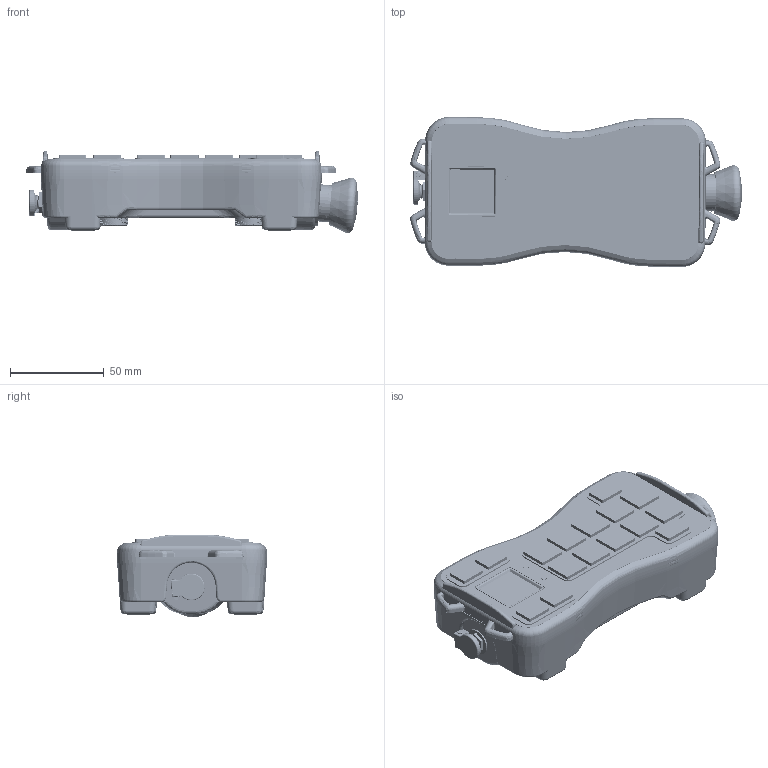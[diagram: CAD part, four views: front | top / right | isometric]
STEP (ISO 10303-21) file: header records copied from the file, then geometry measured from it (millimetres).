
FILE_DESCRIPTION(/* description */ (''),/* implementation_level */ '2;1');
FILE_NAME(/* name */ '8202_Ranger_Customer_Model.step',/* time_stamp */ '2026-05-29T09:32:10-04:00',/* author */ (''),/* organization */ (''),/* preprocessor_version */ 'ST-DEVELOPER v20.1',/* originating_system */ 'Autodesk Translation Framework v15.8.0.0',/* authorisation */ '');
FILE_SCHEMA (('AUTOMOTIVE_DESIGN { 1 0 10303 214 3 1 1 }'));
Products named in the file (34): 8202_Ranger_Customer_Model; GENERIC LXH WITH E-STOP v58; Enclosure_Bottom; Battery_Door; Enclosure_Top; Overlay; Gasket; Battery_Gasket; Red_Mushroom_Switch; NUT; SWITCH; Vent; Barrel Charging Option v3; Barrel Port; NUT (2); POWER JACK; Lid; RB7; Component2(Mirror); Component3(Mirror); Display; 11027-01_T1; 11095-06_T8; 12347-03_T2; 12348-03_T2; Keypad; Mag Feet; Screw_Assembly; 96001A217; 92141A005; Thumbscrew; Mag Screws; Barbed Nut; Gasket (1)
Assembly tree (52 placements, depth 5):
  8202_Ranger_Customer_Model
    GENERIC LXH WITH E-STOP v58
      Enclosure_Bottom
      Battery_Door
      Enclosure_Top
      Overlay
      Gasket
      Battery_Gasket
      Red_Mushroom_Switch
        NUT
        SWITCH
      Mag Feet  x4
      Screw_Assembly  x8
        96001A217
        92141A005
        Gasket (1)
      Vent
      Thumbscrew  x2
      Mag Screws  x4
      Barrel Charging Option v3
        Barrel Port
          NUT (2)
          POWER JACK
        Lid
          RB7
          Component2(Mirror)
          Component3(Mirror)
      Display
        11027-01_T1
        11095-06_T8
        12347-03_T2
        12348-03_T2
      Keypad
      Barbed Nut  x2
      Gasket (1)  x4
Bounding box: 177.04 x 79.99 x 43.9 mm (x, y, z)
Volume: 199190.6 mm3; surface area: 177362.6 mm2
Topology: 69 solids, 69 shells, 11777 faces, 29361 edges, 17897 vertices
Faces by surface type: plane 7594, cylinder 3025, bspline 573, cone 465, torus 79, sphere 41
Full cylindrical faces by diameter (mm): 0.711 x1, 1.26 x1, 1.27 x4, 1.93 x1, 1.935 x128, 2.431 x60, 2.54 x8, 2.73 x2, 2.794 x2, 3.175 x8, 3.2 x3, 3.505 x68, 3.556 x9, 3.81 x4, 3.858 x10, 3.969 x4, 4.727 x20, 4.826 x20, 5.563 x8, 5.817 x1, 5.994 x2, 6.35 x1, 6.967 x3, 7.036 x2, 7.175 x1, 7.62 x1, 7.81 x1, 7.938 x8, 9.525 x8, 9.652 x1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
Entity records: 244274 total; most frequent: CARTESIAN_POINT 82186, ORIENTED_EDGE 34642, DIRECTION 31959, EDGE_CURVE 17321, AXIS2_PLACEMENT_3D 10884, VERTEX_POINT 10671, LINE 10191, VECTOR 10191
